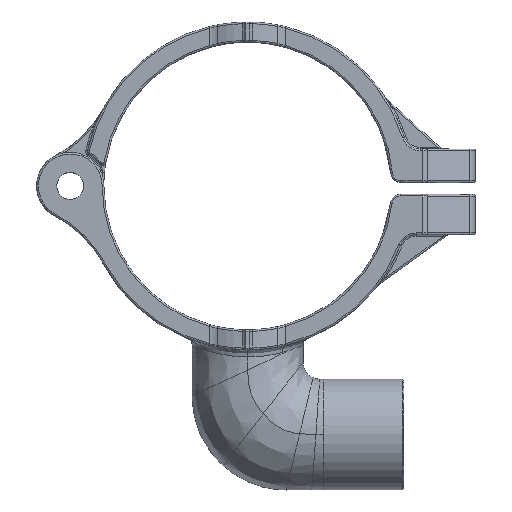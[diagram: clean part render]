
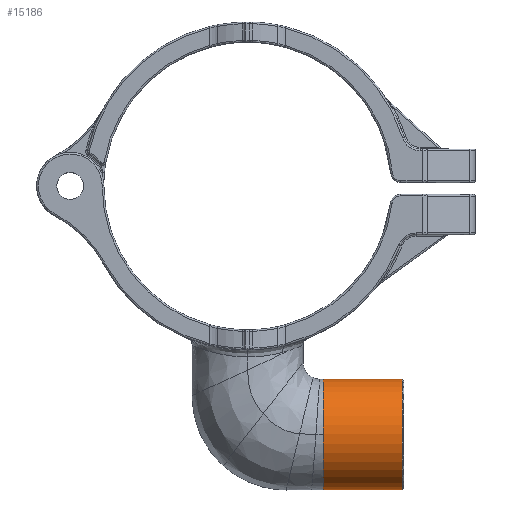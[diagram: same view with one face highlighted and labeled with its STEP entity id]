
A CAD part, top view. The second image highlights one B-rep face of the part: STEP entity #15186.
In plain terms, the highlighted cylindrical face has radius 16.696 mm (diameter 33.393 mm), a partial arc.
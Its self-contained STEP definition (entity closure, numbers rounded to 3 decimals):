
#5661=CARTESIAN_POINT('',(46.548,-74.881,0.));
#5662=DIRECTION('',(-1.,0.,0.));
#5663=DIRECTION('',(0.,-1.,0.));
#5664=AXIS2_PLACEMENT_3D('',#5661,#5662,#5663);
#5669=CARTESIAN_POINT('',(46.548,-74.881,0.));
#5670=DIRECTION('',(-1.,0.,0.));
#5671=DIRECTION('',(0.,0.,1.));
#5672=AXIS2_PLACEMENT_3D('',#5669,#5670,#5671);
#5677=DIRECTION('',(1.,0.,0.));
#5678=VECTOR('',#5677,23.78);
#5679=CARTESIAN_POINT('',(22.768,-58.185,0.));
#5680=LINE('',#5679,#5678);
#5684=DIRECTION('',(1.,0.,0.));
#5685=VECTOR('',#5684,23.78);
#5686=CARTESIAN_POINT('',(22.768,-91.577,0.));
#5687=LINE('',#5686,#5685);
#5757=CARTESIAN_POINT('',(22.768,-74.881,0.));
#5758=DIRECTION('',(1.,0.,0.));
#5759=DIRECTION('',(0.,0.,1.));
#5760=AXIS2_PLACEMENT_3D('',#5757,#5758,#5759);
#5772=CARTESIAN_POINT('',(22.768,-74.881,0.));
#5773=DIRECTION('',(1.,0.,0.));
#5774=DIRECTION('',(0.,1.,0.));
#5775=AXIS2_PLACEMENT_3D('',#5772,#5773,#5774);
#8542=CARTESIAN_POINT('',(46.548,-58.185,0.));
#8543=VERTEX_POINT('',#8542);
#8546=CARTESIAN_POINT('',(46.548,-91.577,0.));
#8547=VERTEX_POINT('',#8546);
#8548=CARTESIAN_POINT('',(46.548,-74.881,16.696));
#8549=VERTEX_POINT('',#8548);
#8550=CARTESIAN_POINT('',(22.768,-58.185,0.));
#8551=VERTEX_POINT('',#8550);
#8552=CARTESIAN_POINT('',(22.768,-91.577,0.));
#8553=VERTEX_POINT('',#8552);
#8554=CARTESIAN_POINT('',(22.768,-74.881,16.696));
#8555=VERTEX_POINT('',#8554);
#15169=CARTESIAN_POINT('',(21.554,-74.881,0.));
#15170=DIRECTION('',(1.,0.,0.));
#15171=DIRECTION('',(0.,1.,0.));
#15172=AXIS2_PLACEMENT_3D('',#15169,#15170,#15171);
#15173=CYLINDRICAL_SURFACE('',#15172,16.696);
#15175=ORIENTED_EDGE('',*,*,#15174,.T.);
#15176=ORIENTED_EDGE('',*,*,#15161,.F.);
#15177=ORIENTED_EDGE('',*,*,#15159,.F.);
#15179=ORIENTED_EDGE('',*,*,#15178,.F.);
#15181=ORIENTED_EDGE('',*,*,#15180,.F.);
#15183=ORIENTED_EDGE('',*,*,#15182,.F.);
#15184=EDGE_LOOP('',(#15175,#15176,#15177,#15179,#15181,#15183));
#15185=FACE_OUTER_BOUND('',#15184,.F.);
#5665=CIRCLE('',#5664,16.696);
#5673=CIRCLE('',#5672,16.696);
#5761=CIRCLE('',#5760,16.696);
#5776=CIRCLE('',#5775,16.696);
#15159=EDGE_CURVE('',#8547,#8549,#5665,.T.);
#15161=EDGE_CURVE('',#8549,#8543,#5673,.T.);
#15174=EDGE_CURVE('',#8551,#8543,#5680,.T.);
#15178=EDGE_CURVE('',#8553,#8547,#5687,.T.);
#15180=EDGE_CURVE('',#8555,#8553,#5761,.T.);
#15182=EDGE_CURVE('',#8551,#8555,#5776,.T.);
#15186=ADVANCED_FACE('',(#15185),#15173,.T.);
